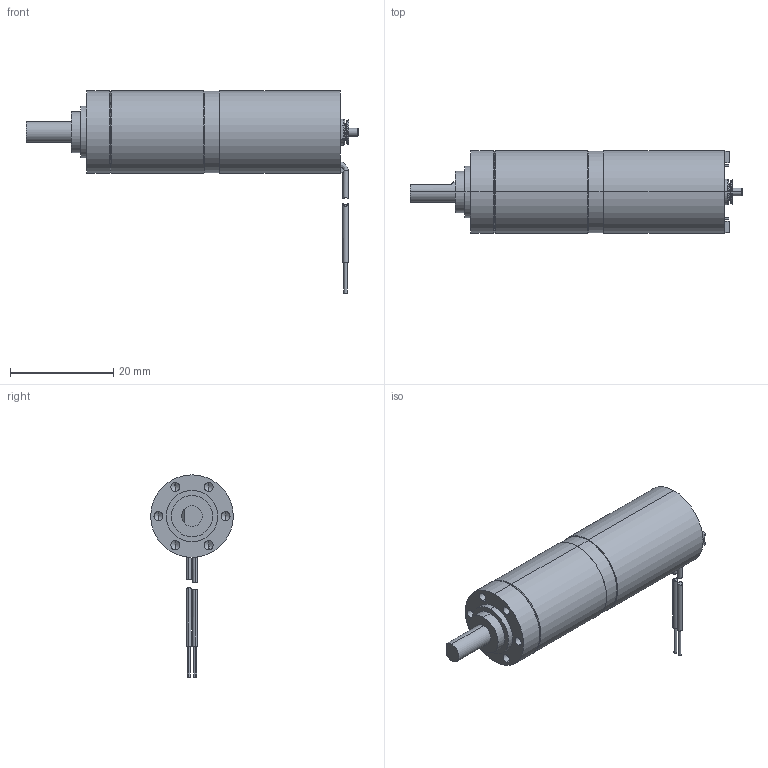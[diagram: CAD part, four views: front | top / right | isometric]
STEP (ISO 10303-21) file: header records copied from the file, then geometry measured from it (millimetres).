
FILE_DESCRIPTION (( 'STEP AP214' ), '1' );
FILE_NAME ('DCX16SG + GP16C-3 étages.STEP', '2014-10-15T13:27:50', ( '' ), ( '' ), 'SwSTEP 2.0', 'SolidWorks 2013', '' );
FILE_SCHEMA (( 'AUTOMOTIVE_DESIGN' ));
Length unit declared in the file: millimetre
Products named in the file (23): 17; 16; 14; 5; 4; 13; 12; 11; DCX16SG; 10; 6; GP16C - 3st; 15; 1; DCX16SG + GP16C-3 étages; 2; 9; 1577440; 8; 7; 3; 19; 18
Assembly tree (22 placements, depth 3):
  DCX16SG + GP16C-3 étages
    GP16C - 3st
    DCX16SG
      10
      11
      12
      13
      4
      5
      14
      16
      17
      18
      19
      3
      7
      8
      1577440
      9
      2
      1
      15
      6
Bounding box: 64.35 x 16 x 39.2 mm (x, y, z)
Volume: 8204 mm3; surface area: 6318.8 mm2
Topology: 21 solids, 21 shells, 1044 faces, 2605 edges, 1657 vertices
Faces by surface type: plane 525, cylinder 297, cone 152, bspline 70
Entity records: 44613 total; most frequent: CARTESIAN_POINT 7607, DIRECTION 5287, ORIENTED_EDGE 5176, EDGE_CURVE 2588, AXIS2_PLACEMENT_3D 1797, VECTOR 1693, LINE 1693, VERTEX_POINT 1657
